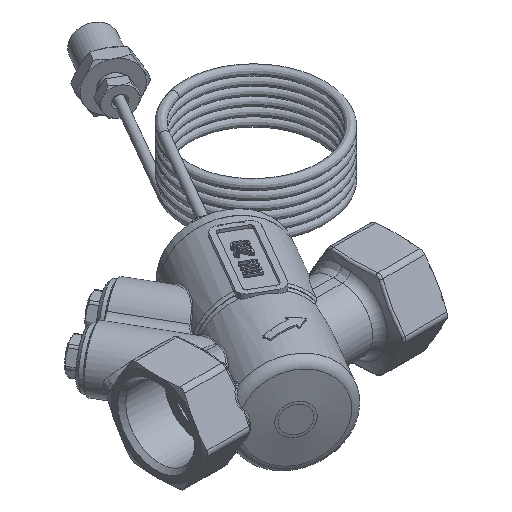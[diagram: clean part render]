
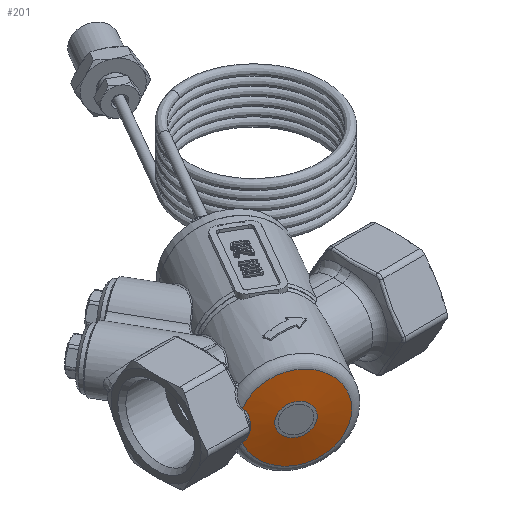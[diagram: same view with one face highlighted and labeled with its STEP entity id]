
A CAD part, isometric view. The second image highlights one B-rep face of the part: STEP entity #201.
In plain terms, the highlighted conical face has half-angle 85 degrees and reference radius 9.983 mm.
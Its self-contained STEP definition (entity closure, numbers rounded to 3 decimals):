
#201=ADVANCED_FACE('',(#7784,#7786),#7788,.T.);
#7784=FACE_OUTER_BOUND('',#7785,.T.);
#7785=EDGE_LOOP('',(#13566));
#7786=FACE_BOUND('',#7787,.T.);
#7787=EDGE_LOOP('',(#13567,#13568,#13569,#13570,#13571,#13572,#13573));
#7788=CONICAL_SURFACE('',#7789,9.983,1.484);
#7789=AXIS2_PLACEMENT_3D('',#7790,#7791,#7792);
#7790=CARTESIAN_POINT('',(-12.778,-22.132,0.));
#7791=DIRECTION('',(0.5,0.866,0.));
#7792=DIRECTION('',(0.866,-0.5,0.));
#13566=ORIENTED_EDGE('',*,*,#15996,.F.);
#13567=ORIENTED_EDGE('',*,*,#15997,.T.);
#13568=ORIENTED_EDGE('',*,*,#15998,.T.);
#13569=ORIENTED_EDGE('',*,*,#15932,.T.);
#13570=ORIENTED_EDGE('',*,*,#15995,.T.);
#13571=ORIENTED_EDGE('',*,*,#15943,.T.);
#13572=ORIENTED_EDGE('',*,*,#15999,.T.);
#13573=ORIENTED_EDGE('',*,*,#16000,.T.);
#15932=EDGE_CURVE('',#17287,#17284,#17288,.F.);
#15943=EDGE_CURVE('',#17305,#17303,#17306,.T.);
#15995=EDGE_CURVE('',#17284,#17305,#17392,.T.);
#15996=EDGE_CURVE('',#17393,#17393,#17394,.T.);
#15997=EDGE_CURVE('',#17395,#17396,#17397,.F.);
#15998=EDGE_CURVE('',#17396,#17287,#17398,.F.);
#15999=EDGE_CURVE('',#17303,#17399,#17400,.F.);
#16000=EDGE_CURVE('',#17399,#17395,#17401,.F.);
#17284=VERTEX_POINT('',#21946);
#17287=VERTEX_POINT('',#21972);
#17288=B_SPLINE_CURVE_WITH_KNOTS('',3,
(#21973,#21974,#21975,#21976,#21977,#21978,#21979),
.UNSPECIFIED.,.F.,.F.,
(4,1,1,1,4),
(0.,0.321,0.605,0.827,1.),
.UNSPECIFIED.);
#17303=VERTEX_POINT('',#22093);
#17305=VERTEX_POINT('',#22103);
#17306=B_SPLINE_CURVE_WITH_KNOTS('',3,
(#22104,#22105,#22106,#22107,#22108,#22109),
.UNSPECIFIED.,.F.,.F.,
(4,1,1,4),
(0.,0.333,0.667,1.),
.UNSPECIFIED.);
#17392=CIRCLE('',#22677,14.511);
#17393=VERTEX_POINT('',#22681);
#17394=CIRCLE('',#22682,5.455);
#17395=VERTEX_POINT('',#22686);
#17396=VERTEX_POINT('',#22687);
#17397=B_SPLINE_CURVE_WITH_KNOTS('',3,
(#22688,#22689,#22690,#22691,#22692,#22693),
.UNSPECIFIED.,.F.,.F.,
(4,1,1,4),
(0.,0.333,0.667,1.),
.UNSPECIFIED.);
#17398=B_SPLINE_CURVE_WITH_KNOTS('',3,
(#22694,#22695,#22696,#22697,#22698,#22699,#22700,#22701,#22702,#22703,#22704,#22705,
#22706,#22707,#22708,#22709,#22710,#22711,#22712),
.UNSPECIFIED.,.F.,.F.,
(4,1,1,1,1,1,1,1,1,1,1,1,1,1,1,1,4),
(0.,0.06,0.114,0.167,0.227,0.298,
0.378,0.467,0.559,0.65,0.725,
0.788,0.835,0.877,0.918,0.959,
1.),
.UNSPECIFIED.);
#17399=VERTEX_POINT('',#22713);
#17400=B_SPLINE_CURVE_WITH_KNOTS('',3,
(#22714,#22715,#22716,#22717,#22718,#22719,#22720,#22721,#22722,#22723,#22724,#22725,
#22726,#22727,#22728,#22729,#22730),
.UNSPECIFIED.,.F.,.F.,
(4,1,1,1,1,1,1,1,1,1,1,1,1,1,4),
(0.,0.13,0.251,0.363,0.463,0.554,
0.637,0.713,0.785,0.844,0.893,
0.932,0.965,0.987,1.),
.UNSPECIFIED.);
#17401=B_SPLINE_CURVE_WITH_KNOTS('',3,
(#22731,#22732,#22733,#22734,#22735,#22736),
.UNSPECIFIED.,.F.,.F.,
(4,1,1,4),
(0.,0.333,0.667,1.),
.UNSPECIFIED.);
#21946=CARTESIAN_POINT('',(-24.296,-15.024,-5.249));
#21972=CARTESIAN_POINT('',(-23.743,-15.433,-4.543));
#21973=CARTESIAN_POINT('',(-24.296,-15.024,-5.249));
#21974=CARTESIAN_POINT('',(-24.237,-15.068,-5.174));
#21975=CARTESIAN_POINT('',(-24.126,-15.15,-5.031));
#21976=CARTESIAN_POINT('',(-23.973,-15.263,-4.837));
#21977=CARTESIAN_POINT('',(-23.848,-15.356,-4.677));
#21978=CARTESIAN_POINT('',(-23.775,-15.409,-4.584));
#21979=CARTESIAN_POINT('',(-23.743,-15.433,-4.543));
#22093=CARTESIAN_POINT('',(-23.743,-15.433,4.543));
#22103=CARTESIAN_POINT('',(-24.296,-15.024,5.249));
#22104=CARTESIAN_POINT('',(-24.296,-15.024,5.249));
#22105=CARTESIAN_POINT('',(-24.234,-15.07,5.171));
#22106=CARTESIAN_POINT('',(-24.112,-15.16,5.013));
#22107=CARTESIAN_POINT('',(-23.928,-15.297,4.779));
#22108=CARTESIAN_POINT('',(-23.805,-15.388,4.622));
#22109=CARTESIAN_POINT('',(-23.743,-15.433,4.543));
#22677=AXIS2_PLACEMENT_3D('',#22678,#22679,#22680);
#22678=CARTESIAN_POINT('',(-12.58,-21.789,0.));
#22679=DIRECTION('',(-0.5,-0.866,0.));
#22680=DIRECTION('',(-0.807,0.466,-0.362));
#22681=CARTESIAN_POINT('',(-17.7,-19.748,0.));
#22682=AXIS2_PLACEMENT_3D('',#22683,#22684,#22685);
#22683=CARTESIAN_POINT('',(-12.976,-22.475,0.));
#22684=DIRECTION('',(-0.5,-0.866,0.));
#22685=DIRECTION('',(-0.866,0.5,0.));
#22686=CARTESIAN_POINT('',(-22.766,-16.201,0.));
#22687=CARTESIAN_POINT('',(-22.775,-16.187,-1.256));
#22688=CARTESIAN_POINT('',(-22.775,-16.187,-1.256));
#22689=CARTESIAN_POINT('',(-22.773,-16.19,-1.117));
#22690=CARTESIAN_POINT('',(-22.77,-16.195,-0.838));
#22691=CARTESIAN_POINT('',(-22.766,-16.2,-0.419));
#22692=CARTESIAN_POINT('',(-22.766,-16.201,-0.14));
#22693=CARTESIAN_POINT('',(-22.766,-16.201,0.));
#22694=CARTESIAN_POINT('',(-23.743,-15.433,-4.543));
#22695=CARTESIAN_POINT('',(-23.703,-15.463,-4.49));
#22696=CARTESIAN_POINT('',(-23.628,-15.518,-4.388));
#22697=CARTESIAN_POINT('',(-23.53,-15.592,-4.228));
#22698=CARTESIAN_POINT('',(-23.439,-15.66,-4.062));
#22699=CARTESIAN_POINT('',(-23.347,-15.73,-3.874));
#22700=CARTESIAN_POINT('',(-23.252,-15.804,-3.652));
#22701=CARTESIAN_POINT('',(-23.155,-15.879,-3.394));
#22702=CARTESIAN_POINT('',(-23.062,-15.951,-3.107));
#22703=CARTESIAN_POINT('',(-22.979,-16.017,-2.801));
#22704=CARTESIAN_POINT('',(-22.913,-16.07,-2.507));
#22705=CARTESIAN_POINT('',(-22.865,-16.109,-2.242));
#22706=CARTESIAN_POINT('',(-22.833,-16.135,-2.027));
#22707=CARTESIAN_POINT('',(-22.812,-16.153,-1.849));
#22708=CARTESIAN_POINT('',(-22.797,-16.166,-1.695));
#22709=CARTESIAN_POINT('',(-22.785,-16.176,-1.549));
#22710=CARTESIAN_POINT('',(-22.78,-16.182,-1.403));
#22711=CARTESIAN_POINT('',(-22.779,-16.184,-1.305));
#22712=CARTESIAN_POINT('',(-22.775,-16.187,-1.256));
#22713=CARTESIAN_POINT('',(-22.775,-16.187,1.256));
#22714=CARTESIAN_POINT('',(-22.775,-16.187,1.256));
#22715=CARTESIAN_POINT('',(-22.785,-16.178,1.41));
#22716=CARTESIAN_POINT('',(-22.79,-16.17,1.71));
#22717=CARTESIAN_POINT('',(-22.846,-16.124,2.135));
#22718=CARTESIAN_POINT('',(-22.915,-16.068,2.521));
#22719=CARTESIAN_POINT('',(-22.995,-16.004,2.865));
#22720=CARTESIAN_POINT('',(-23.082,-15.935,3.172));
#22721=CARTESIAN_POINT('',(-23.173,-15.864,3.446));
#22722=CARTESIAN_POINT('',(-23.269,-15.791,3.693));
#22723=CARTESIAN_POINT('',(-23.364,-15.718,3.909));
#22724=CARTESIAN_POINT('',(-23.455,-15.649,4.091));
#22725=CARTESIAN_POINT('',(-23.536,-15.587,4.237));
#22726=CARTESIAN_POINT('',(-23.607,-15.534,4.353));
#22727=CARTESIAN_POINT('',(-23.667,-15.489,4.441));
#22728=CARTESIAN_POINT('',(-23.712,-15.456,4.502));
#22729=CARTESIAN_POINT('',(-23.735,-15.439,4.532));
#22730=CARTESIAN_POINT('',(-23.743,-15.433,4.543));
#22731=CARTESIAN_POINT('',(-22.766,-16.201,0.));
#22732=CARTESIAN_POINT('',(-22.766,-16.201,0.14));
#22733=CARTESIAN_POINT('',(-22.767,-16.199,0.419));
#22734=CARTESIAN_POINT('',(-22.769,-16.196,0.838));
#22735=CARTESIAN_POINT('',(-22.775,-16.188,1.117));
#22736=CARTESIAN_POINT('',(-22.775,-16.187,1.256));
